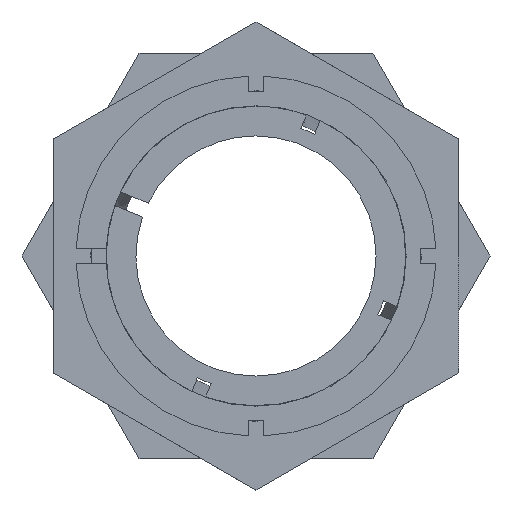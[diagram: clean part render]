
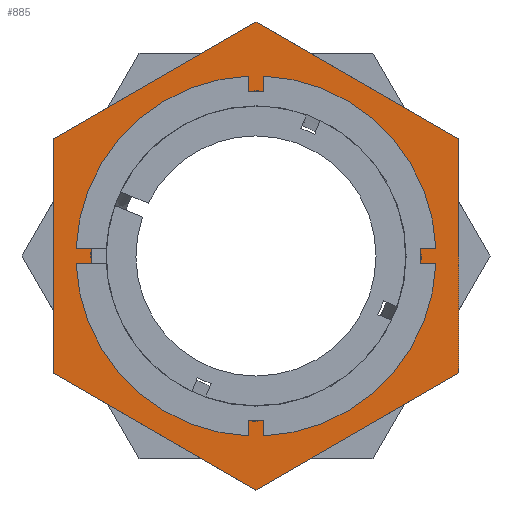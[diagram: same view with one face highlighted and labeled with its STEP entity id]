
A CAD part, left-side view. The second image highlights one B-rep face of the part: STEP entity #885.
In plain terms, the highlighted planar face has unit normal (-1, 0, 0).
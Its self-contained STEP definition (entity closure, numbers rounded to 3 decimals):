
#79 = PLANE ( 'NONE',  #2221 ) ;
#82 = CARTESIAN_POINT ( 'NONE',  ( 15.52, 50., 0. ) ) ;
#87 = DIRECTION ( 'NONE',  ( 1., 0., 0. ) ) ;
#88 = DIRECTION ( 'NONE',  ( 0., 0., -1. ) ) ;
#212 = CARTESIAN_POINT ( 'NONE',  ( 15.52, -13.5, -7.794 ) ) ;
#222 = CARTESIAN_POINT ( 'NONE',  ( 15.52, 13.5, 7.794 ) ) ;
#230 = CARTESIAN_POINT ( 'NONE',  ( 15.52, 0., -11.001 ) ) ;
#237 = CARTESIAN_POINT ( 'NONE',  ( 15.52, 0., 11.001 ) ) ;
#298 = CARTESIAN_POINT ( 'NONE',  ( 15.52, 13.5, -7.794 ) ) ;
#305 = CARTESIAN_POINT ( 'NONE',  ( 15.52, -13.5, 7.794 ) ) ;
#311 = CARTESIAN_POINT ( 'NONE',  ( 15.52, 0., 15.588 ) ) ;
#314 = DIRECTION ( 'NONE',  ( 0., 0.866, 0.5 ) ) ;
#472 = CARTESIAN_POINT ( 'NONE',  ( 15.52, -13.5, -7.794 ) ) ;
#473 = DIRECTION ( 'NONE',  ( 0., -0.866, 0.5 ) ) ;
#478 = CARTESIAN_POINT ( 'NONE',  ( 15.52, 13.5, -7.794 ) ) ;
#481 = CARTESIAN_POINT ( 'NONE',  ( 15.52, 0., 0. ) ) ;
#482 = DIRECTION ( 'NONE',  ( 0., 0., -1. ) ) ;
#487 = DIRECTION ( 'NONE',  ( -1., 0., 0. ) ) ;
#488 = DIRECTION ( 'NONE',  ( 0., 0., 1. ) ) ;
#490 = CARTESIAN_POINT ( 'NONE',  ( 15.52, 0., -15.588 ) ) ;
#491 = DIRECTION ( 'NONE',  ( 0., -0.866, -0.5 ) ) ;
#498 = CARTESIAN_POINT ( 'NONE',  ( 15.52, 0., 0. ) ) ;
#505 = DIRECTION ( 'NONE',  ( -1., 0., 0. ) ) ;
#506 = DIRECTION ( 'NONE',  ( 0., 0., 1. ) ) ;
#517 = CARTESIAN_POINT ( 'NONE',  ( 15.52, -13.5, 7.794 ) ) ;
#518 = DIRECTION ( 'NONE',  ( 0., 0., 1. ) ) ;
#547 = CARTESIAN_POINT ( 'NONE',  ( 15.52, 13.5, 7.794 ) ) ;
#548 = DIRECTION ( 'NONE',  ( 0., 0.866, -0.5 ) ) ;
#789 = CARTESIAN_POINT ( 'NONE',  ( 15.52, 0., 15.588 ) ) ;
#804 = CARTESIAN_POINT ( 'NONE',  ( 15.52, 0., -15.588 ) ) ;
#885 = ADVANCED_FACE ( 'NONE', ( #1426, #1420 ), #79, .F. ) ;
#925 = VECTOR ( 'NONE', #548, 1000. ) ;
#926 = LINE ( 'NONE', #547, #925 ) ;
#959 = VECTOR ( 'NONE', #518, 1000. ) ;
#960 = LINE ( 'NONE', #517, #959 ) ;
#973 = CIRCLE ( 'NONE', #2290, 11.001 ) ;
#989 = VECTOR ( 'NONE', #491, 1000. ) ;
#991 = LINE ( 'NONE', #490, #989 ) ;
#992 = CIRCLE ( 'NONE', #2284, 11.001 ) ;
#1005 = VECTOR ( 'NONE', #482, 1000. ) ;
#1016 = LINE ( 'NONE', #472, #1022 ) ;
#1021 = LINE ( 'NONE', #478, #1005 ) ;
#1022 = VECTOR ( 'NONE', #473, 1000. ) ;
#1076 = VERTEX_POINT ( 'NONE', #212 ) ;
#1103 = VERTEX_POINT ( 'NONE', #222 ) ;
#1205 = VERTEX_POINT ( 'NONE', #230 ) ;
#1235 = VERTEX_POINT ( 'NONE', #237 ) ;
#1348 = VERTEX_POINT ( 'NONE', #298 ) ;
#1358 = VERTEX_POINT ( 'NONE', #305 ) ;
#1385 = LINE ( 'NONE', #311, #1388 ) ;
#1388 = VECTOR ( 'NONE', #314, 1000. ) ;
#1420 = FACE_OUTER_BOUND ( 'NONE', #1660, .T. ) ;
#1426 = FACE_BOUND ( 'NONE', #1645, .T. ) ;
#1645 = EDGE_LOOP ( 'NONE', ( #1803, #1802 ) ) ;
#1660 = EDGE_LOOP ( 'NONE', ( #1801, #1800, #1799, #1798, #1797, #1796 ) ) ;
#1796 = ORIENTED_EDGE ( 'NONE', *, *, #1982, .T. ) ;
#1797 = ORIENTED_EDGE ( 'NONE', *, *, #2064, .T. ) ;
#1798 = ORIENTED_EDGE ( 'NONE', *, *, #2044, .T. ) ;
#1799 = ORIENTED_EDGE ( 'NONE', *, *, #2053, .T. ) ;
#1800 = ORIENTED_EDGE ( 'NONE', *, *, #2048, .T. ) ;
#1801 = ORIENTED_EDGE ( 'NONE', *, *, #2078, .T. ) ;
#1802 = ORIENTED_EDGE ( 'NONE', *, *, #2058, .F. ) ;
#1803 = ORIENTED_EDGE ( 'NONE', *, *, #2051, .F. ) ;
#1982 = EDGE_CURVE ( 'NONE', #1358, #2329, #1385, .T. ) ;
#2044 = EDGE_CURVE ( 'NONE', #2342, #1076, #1016, .T. ) ;
#2048 = EDGE_CURVE ( 'NONE', #1103, #1348, #1021, .T. ) ;
#2051 = EDGE_CURVE ( 'NONE', #1235, #1205, #992, .T. ) ;
#2053 = EDGE_CURVE ( 'NONE', #1348, #2342, #991, .T. ) ;
#2058 = EDGE_CURVE ( 'NONE', #1205, #1235, #973, .T. ) ;
#2064 = EDGE_CURVE ( 'NONE', #1076, #1358, #960, .T. ) ;
#2078 = EDGE_CURVE ( 'NONE', #2329, #1103, #926, .T. ) ;
#2221 = AXIS2_PLACEMENT_3D ( 'NONE', #82, #87, #88 ) ;
#2284 = AXIS2_PLACEMENT_3D ( 'NONE', #481, #487, #488 ) ;
#2290 = AXIS2_PLACEMENT_3D ( 'NONE', #498, #505, #506 ) ;
#2329 = VERTEX_POINT ( 'NONE', #789 ) ;
#2342 = VERTEX_POINT ( 'NONE', #804 ) ;
